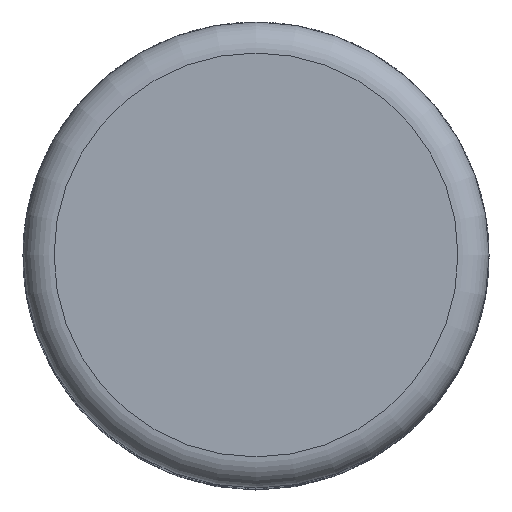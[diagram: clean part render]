
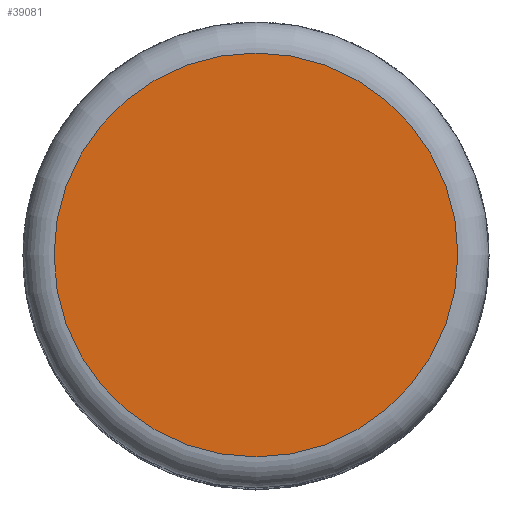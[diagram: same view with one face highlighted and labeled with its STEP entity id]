
A CAD part, top view. The second image highlights one B-rep face of the part: STEP entity #39081.
In plain terms, the highlighted planar face has unit normal (0, 0, 1).
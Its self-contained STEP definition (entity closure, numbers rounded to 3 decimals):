
#111 = TOROIDAL_SURFACE('',#112,5.2,0.8);
#112 = AXIS2_PLACEMENT_3D('',#113,#114,#115);
#113 = CARTESIAN_POINT('',(0.,0.,29.2));
#114 = DIRECTION('',(0.,0.,1.));
#115 = DIRECTION('',(1.,0.,-0.));
#19861 = VERTEX_POINT('',#19862);
#19862 = CARTESIAN_POINT('',(5.2,0.,30.));
#19884 = EDGE_CURVE('',#19861,#19861,#19885,.T.);
#19885 = SURFACE_CURVE('',#19886,(#19891,#19898),.PCURVE_S1.);
#19886 = CIRCLE('',#19887,5.2);
#19887 = AXIS2_PLACEMENT_3D('',#19888,#19889,#19890);
#19888 = CARTESIAN_POINT('',(0.,0.,30.));
#19889 = DIRECTION('',(0.,0.,1.));
#19890 = DIRECTION('',(1.,0.,-0.));
#19891 = PCURVE('',#111,#19892);
#19892 = DEFINITIONAL_REPRESENTATION('',(#19893),#19897);
#19893 = LINE('',#19894,#19895);
#19894 = CARTESIAN_POINT('',(0.,1.571));
#19895 = VECTOR('',#19896,1.);
#19896 = DIRECTION('',(1.,0.));
#19897 = ( GEOMETRIC_REPRESENTATION_CONTEXT(2) 
PARAMETRIC_REPRESENTATION_CONTEXT() REPRESENTATION_CONTEXT('2D SPACE',''
  ) );
#19898 = PCURVE('',#19899,#19904);
#19899 = PLANE('',#19900);
#19900 = AXIS2_PLACEMENT_3D('',#19901,#19902,#19903);
#19901 = CARTESIAN_POINT('',(0.,0.,30.));
#19902 = DIRECTION('',(0.,0.,1.));
#19903 = DIRECTION('',(1.,0.,-0.));
#19904 = DEFINITIONAL_REPRESENTATION('',(#19905),#19909);
#19905 = CIRCLE('',#19906,5.2);
#19906 = AXIS2_PLACEMENT_2D('',#19907,#19908);
#19907 = CARTESIAN_POINT('',(0.,0.));
#19908 = DIRECTION('',(1.,0.));
#19909 = ( GEOMETRIC_REPRESENTATION_CONTEXT(2) 
PARAMETRIC_REPRESENTATION_CONTEXT() REPRESENTATION_CONTEXT('2D SPACE',''
  ) );
#39081 = ADVANCED_FACE('',(#39082),#19899,.T.);
#39082 = FACE_BOUND('',#39083,.T.);
#39083 = EDGE_LOOP('',(#39084));
#39084 = ORIENTED_EDGE('',*,*,#19884,.T.);
